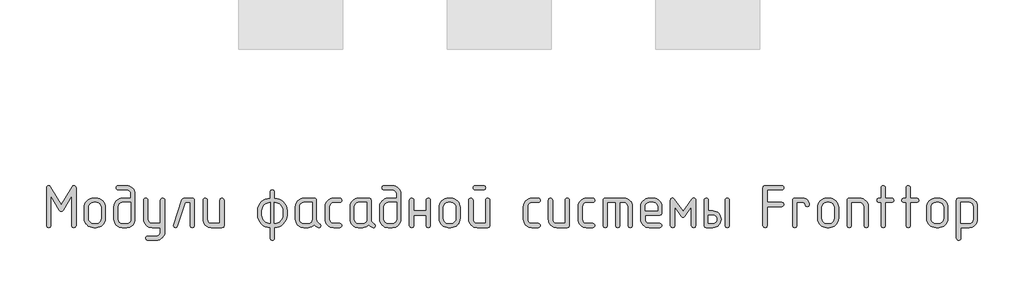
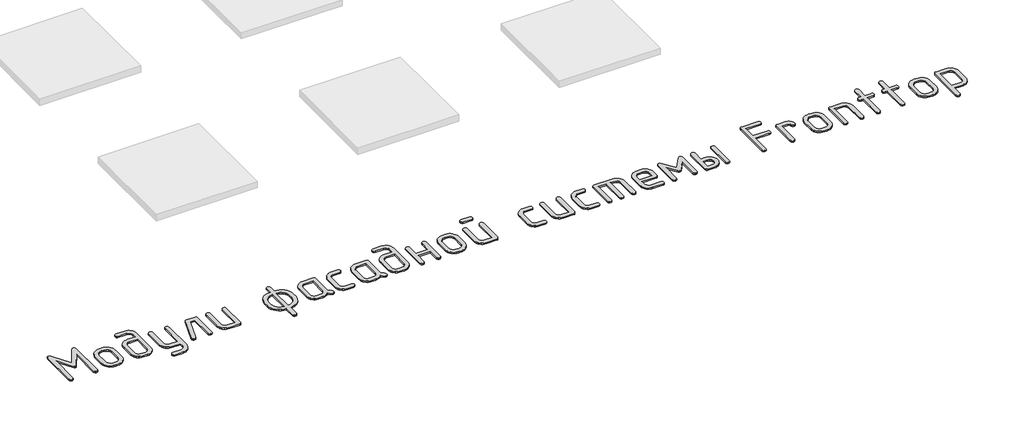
# One storey, part 35 of 37: 1 proxy.
"""IFC4 building model written with IfcOpenShell, lengths in millimetres."""

from ifc_helpers import new_model, si_unit, origin, origin_with_axes, place, context, project, spatial, polyline, outline, extrude, element, save

model = new_model("IFC4")

# Units and contexts
model_context = context("Model", 3, world=origin())
ifc_project = project(units=[si_unit("LENGTHUNIT", "METRE", prefix="MILLI")], contexts=[model_context])

# Site, building, storey
site = spatial("IfcSite", under=ifc_project)
building = spatial("IfcBuilding", under=site)
storey = spatial("IfcBuildingStorey", under=building, Name="Этаж 01", Elevation=0.0)

# Proxy
placement = place(None, origin())
element("IfcBuildingElementProxy", 1, Name="600 мм ГОСТ 2.304", ObjectType="600 мм ГОСТ 2.304", at=placement, inside=storey, context=model_context, shape_type="SweptSolid", body=[
    extrude(outline(polyline([(57915.5638643, -16440.0995308), (57913.3455828, -16453.2385833), (57906.690738, -16462.6236208), (57896.7369103, -16468.2546433), (57884.6216801, -16470.1316508), (57873.6629898, -16468.1408853), (57863.8418798, -16462.1685887), (57856.90264, -16452.6697932), (57854.58956, -16440.0995308), (57854.58956, -16009.0324342), (57730.0624361, -16217.4371459), (57717.6628107, -16231.9981738), (57703.5188956, -16236.8518498), (57690.0575287, -16231.9981738), (57677.8854194, -16217.4371459), (57552.4482312, -16009.0324342), (57552.4482312, -16440.0995308), (57550.3437077, -16453.2385833), (57544.030137, -16462.6236208), (57534.4175834, -16468.2546433), (57522.4161112, -16470.1316508), (57510.7748727, -16468.1408853), (57500.7262467, -16462.1685887), (57493.7870069, -16452.6697932), (57491.4739269, -16440.0995308), (57491.4739269, -15899.5213702), (57493.5784505, -15885.1499391), (57499.8920212, -15873.887894), (57509.0495426, -15866.6073801), (57519.6859185, -15864.1805421), (57535.1949299, -15869.0342181), (57548.0495874, -15883.595246), (57703.5188956, -16143.2669101), (57858.9882039, -15883.595246), (57872.032458, -15869.0342181), (57888.1102597, -15864.1805421), (57898.1778454, -15866.6073801), (57907.1457701, -15873.887894), (57913.4593408, -15885.1499391), (57915.5638643, -15899.5213702), (57915.5638643, -16440.0995308)])), origin_with_axes(), (0.0, 0.0, 1.0), 20.0),
    extrude(outline(polyline([(58337.2269638, -16337.5656261), (58334.8001258, -16364.3556422), (58327.5196119, -16389.0600945), (58315.3854219, -16411.6789829), (58298.3975561, -16432.2123074), (58278.2623847, -16448.8020201), (58255.9278914, -16460.651815), (58231.3940762, -16467.7616919), (58204.660939, -16470.1316508), (58168.4100466, -16470.1316508), (58141.6863893, -16467.7616919), (58117.0293362, -16460.651815), (58094.4388874, -16448.8020201), (58073.9150427, -16432.2123074), (58056.9271768, -16411.6789829), (58044.7929869, -16389.0600945), (58037.512473, -16364.3556422), (58035.085635, -16337.5656261), (58035.085635, -16180.4278667), (58037.512473, -16154.0360036), (58044.7929869, -16129.6159464), (58056.9271768, -16107.1676951), (58073.9150427, -16086.6912496), (58095.0645565, -16069.7033837), (58117.8635618, -16057.5691938), (58142.3120585, -16050.2886799), (58168.4100466, -16047.8618419), (58204.660939, -16047.8618419), (58231.0480621, -16050.2934198), (58255.4538996, -16057.5881535), (58277.8784513, -16069.746043), (58298.3217174, -16086.7670883), (58315.3427627, -16107.2103544), (58327.5006522, -16129.6349061), (58334.7953859, -16154.0407436), (58337.2269638, -16180.4278667), (58337.2269638, -16337.5656261)]), holes=[polyline([(58277.1627237, -16337.5656261), (58277.1627237, -16180.4278667), (58271.8540156, -16152.5950686), (58255.9278914, -16129.1609143), (58232.4937371, -16113.2347901), (58204.660939, -16107.926082), (58168.4100466, -16107.926082), (58140.5962082, -16113.2347901), (58117.2189329, -16129.1609143), (58101.3496877, -16152.5950686), (58096.0599393, -16180.4278667), (58096.0599393, -16337.5656261), (58101.3496877, -16365.3984242), (58117.2189329, -16388.8325784), (58140.5962082, -16404.7587027), (58168.4100466, -16410.0674108), (58204.660939, -16410.0674108), (58232.4937371, -16404.7587027), (58255.9278914, -16388.8325784), (58271.8540156, -16365.3984242), (58277.1627237, -16337.5656261)])]), origin_with_axes(), (0.0, 0.0, 1.0), 20.0),
    extrude(outline(polyline([(58704.2862086, -16047.8618419), (58704.2862086, -15986.8875376), (58699.8686051, -15963.358585), (58686.6157946, -15944.0386795), (58666.954615, -15931.127143), (58643.3119043, -15926.8232975), (58523.1834242, -15926.8232975), (58510.6131618, -15924.6239756), (58501.1143663, -15918.0260098), (58495.1420697, -15908.3186579), (58493.1513042, -15896.7911775), (58495.0283117, -15885.2447374), (58500.6593342, -15875.1771517), (58510.0443717, -15868.1810328), (58523.1834242, -15865.8489932), (58643.3119043, -15865.8489932), (58667.8931187, -15868.057795), (58690.3698096, -15874.6842003), (58710.7419769, -15885.728209), (58729.0096206, -15901.1898213), (58744.4712329, -15919.7987392), (58755.5152417, -15940.2846645), (58762.1416469, -15962.6475973), (58764.3504487, -15986.8875376), (58764.3504487, -16349.0931065), (58762.1416469, -16373.7311999), (58755.5152417, -16396.3785278), (58744.4712329, -16417.0350901), (58729.0096206, -16435.700887), (58710.7419769, -16450.7643462), (58690.3698096, -16461.5239599), (58667.8931187, -16467.9797281), (58643.3119043, -16470.1316508), (58583.2476643, -16470.1316508), (58559.0077239, -16467.9797281), (58536.6447911, -16461.5239599), (58516.1588658, -16450.7643462), (58497.549948, -16435.700887), (58482.0883357, -16417.0350901), (58471.0443269, -16396.3785278), (58464.4179216, -16373.7311999), (58462.2091199, -16349.0931065), (58462.2091199, -16167.990322), (58464.4179216, -16144.1485348), (58471.0443269, -16122.0699971), (58482.0883357, -16101.7547088), (58497.549948, -16083.20267), (58516.1588658, -16067.7410577), (58536.6447911, -16056.6970489), (58559.0077239, -16050.0706437), (58583.2476643, -16047.8618419), (58704.2862086, -16047.8618419)]), holes=[polyline([(58704.2862086, -16107.926082), (58583.2476643, -16107.926082), (58559.7187116, -16112.3436855), (58540.3988061, -16125.596496), (58527.4872697, -16145.0301596), (58523.1834242, -16167.990322), (58523.1834242, -16349.0931065), (58527.4872697, -16372.7358171), (58540.3988061, -16392.3969967), (58559.7187116, -16405.6498073), (58583.2476643, -16410.0674108), (58643.3119043, -16410.0674108), (58666.954615, -16405.6498073), (58686.6157946, -16392.3969967), (58699.8686051, -16372.7358171), (58704.2862086, -16349.0931065), (58704.2862086, -16107.926082)])]), origin_with_axes(), (0.0, 0.0, 1.0), 20.0),
    extrude(outline(polyline([(59131.4096935, -16470.1316508), (59010.3711492, -16470.1316508), (58986.1312088, -16467.9797281), (58963.768276, -16461.5239599), (58943.2823507, -16450.7643462), (58924.6734329, -16435.700887), (58909.2118206, -16417.0350901), (58898.1678118, -16396.3785278), (58891.5414065, -16373.7311999), (58889.3326048, -16349.0931065), (58889.3326048, -16077.8939619), (58891.5508864, -16065.3236996), (58898.2057312, -16055.824904), (58908.1595588, -16049.8526074), (58920.2747891, -16047.8618419), (58931.2334793, -16049.7388494), (58941.0545893, -16055.3698719), (58947.9938291, -16064.7549094), (58950.3069091, -16077.8939619), (58950.3069091, -16349.0931065), (58954.6107546, -16372.7358171), (58967.522291, -16392.3969967), (58986.8421965, -16405.6498073), (59010.3711492, -16410.0674108), (59131.4096935, -16410.0674108), (59131.4096935, -16077.8939619), (59133.6090155, -16065.3236996), (59140.2069812, -16055.824904), (59149.9143332, -16049.8526074), (59161.4418136, -16047.8618419), (59172.8744956, -16049.7388494), (59182.6008072, -16055.3698719), (59189.255652, -16064.7549094), (59191.4739336, -16077.8939619), (59191.4739336, -16530.1958909), (59189.3220109, -16554.7771053), (59182.8662426, -16577.2537962), (59172.1066289, -16597.6259634), (59157.0431697, -16615.8936072), (59138.3773729, -16631.3552195), (59117.7208105, -16642.3992283), (59095.0734827, -16649.0256335), (59070.4353892, -16651.2344353), (58950.3069091, -16651.2344353), (58937.7366467, -16649.0161537), (58928.2378512, -16642.3613089), (58922.2655546, -16632.6349973), (58920.2747891, -16621.2023153), (58922.1517966, -16609.6748348), (58927.7828191, -16599.9674829), (58937.1678566, -16593.3695171), (58950.3069091, -16591.1701952), (59070.4353892, -16591.1701952), (59094.0780999, -16586.7525917), (59113.7392795, -16573.4997812), (59126.99209, -16553.8386016), (59131.4096935, -16530.1958909), (59131.4096935, -16470.1316508)])), origin_with_axes(), (0.0, 0.0, 1.0), 20.0),
    extrude(outline(polyline([(59618.5974185, -16440.0995308), (59616.4928949, -16453.2385833), (59610.1793243, -16462.6236208), (59600.5667707, -16468.2546433), (59588.5652985, -16470.1316508), (59577.0378181, -16468.1408853), (59567.3304661, -16462.1685887), (59560.7325004, -16452.6697932), (59558.5331784, -16440.0995308), (59558.5331784, -16107.926082), (59488.7615864, -16107.926082), (59375.6102655, -16449.8068827), (59364.6136559, -16464.8229428), (59348.3083382, -16470.1316508), (59336.6670998, -16468.1408853), (59326.6184737, -16462.1685887), (59319.6792339, -16452.8973092), (59317.3661539, -16441.0095951), (59319.1862824, -16430.3921789), (59438.4046983, -16068.18661), (59449.1737919, -16052.9430339), (59467.5267541, -16047.8618419), (59588.5652985, -16047.8618419), (59601.704351, -16049.7388494), (59611.0893885, -16055.3698719), (59616.720411, -16064.7549094), (59618.5974185, -16077.8939619), (59618.5974185, -16440.0995308)])), origin_with_axes(), (0.0, 0.0, 1.0), 20.0),
    extrude(outline(polyline([(60045.7209034, -16440.0995308), (60043.8438959, -16453.2385833), (60038.2128734, -16462.6236208), (60028.8278359, -16468.2546433), (60015.6887834, -16470.1316508), (59864.618119, -16470.1316508), (59840.3781787, -16467.9797281), (59818.0152458, -16461.5239599), (59797.5293205, -16450.7643462), (59778.9204027, -16435.700887), (59763.4587904, -16417.0350901), (59752.4147816, -16396.3785278), (59745.7883764, -16373.7311999), (59743.5795746, -16349.0931065), (59743.5795746, -16077.8939619), (59745.7978562, -16065.3236996), (59752.452701, -16055.824904), (59762.4065286, -16049.8526074), (59774.5217589, -16047.8618419), (59785.4804491, -16049.7388494), (59795.3015591, -16055.3698719), (59802.240799, -16064.7549094), (59804.5538789, -16077.8939619), (59804.5538789, -16349.0931065), (59808.8577244, -16372.7358171), (59821.7692608, -16392.3969967), (59841.0891664, -16405.6498073), (59864.618119, -16410.0674108), (59985.6566633, -16410.0674108), (59985.6566633, -16077.8939619), (59987.8559853, -16065.3236996), (59994.453951, -16055.824904), (60004.161303, -16049.8526074), (60015.6887834, -16047.8618419), (60027.1214654, -16049.7388494), (60036.847777, -16055.3698719), (60043.5026218, -16064.7549094), (60045.7209034, -16077.8939619), (60045.7209034, -16440.0995308)])), origin_with_axes(), (0.0, 0.0, 1.0), 20.0),
    extrude(outline(polyline([(60771.9521697, -16047.8618419), (60808.4495377, -16051.1229054), (60841.9512777, -16060.9060961), (60872.4573895, -16077.2114138), (60899.9678732, -16100.0388585), (60923.1934711, -16127.6062212), (60939.7831839, -16158.2829701), (60949.7370115, -16192.0691051), (60953.0549541, -16228.9646263), (60953.0549541, -16289.0288664), (60949.7417515, -16325.1897003), (60939.8021435, -16358.591902), (60923.2361304, -16389.2354715), (60900.0437119, -16417.1204087), (60872.1587747, -16440.3128271), (60841.5152053, -16456.8788403), (60808.1130036, -16466.8184482), (60771.9521697, -16470.1316508), (60771.9521697, -16621.2023153), (60769.8476461, -16634.3413678), (60763.5340754, -16643.7264053), (60753.9215218, -16649.3574278), (60741.9200496, -16651.2344353), (60730.2788112, -16649.2436698), (60720.2301852, -16643.2713732), (60713.2909453, -16633.7725776), (60710.9778653, -16621.2023153), (60710.9778653, -16470.1316508), (60674.8170314, -16466.8184482), (60641.4148297, -16456.8788403), (60610.7712603, -16440.3128271), (60582.8863231, -16417.1204087), (60559.6939046, -16389.2354715), (60543.1278915, -16358.591902), (60533.1882835, -16325.1897003), (60529.8750809, -16289.0288664), (60529.8750809, -16228.9646263), (60533.1835436, -16192.4672582), (60543.1089318, -16158.9655183), (60559.6512454, -16128.4594065), (60582.8104844, -16100.9489228), (60610.728601, -16077.7233249), (60641.3958701, -16061.1336121), (60674.8122915, -16051.1797845), (60710.9778653, -16047.8618419), (60710.9778653, -15956.8554176), (60713.1771873, -15944.2851552), (60719.775153, -15934.7863597), (60729.710021, -15928.8140631), (60741.9200496, -15926.8232975), (60752.8787399, -15928.8140631), (60762.6998498, -15934.7863597), (60769.6390897, -15944.2851552), (60771.9521697, -15956.8554176), (60771.9521697, -16047.8618419)]), holes=[polyline([(60771.9521697, -16107.926082), (60771.9521697, -16410.0674108), (60796.135231, -16407.858609), (60818.3275267, -16401.2322037), (60838.529057, -16390.188195), (60856.7398217, -16374.7265827), (60872.201434, -16356.1176648), (60883.2454428, -16335.6317395), (60889.871848, -16313.2688067), (60892.0806498, -16289.0288664), (60892.0806498, -16228.9646263), (60889.871848, -16204.724686), (60883.2454428, -16182.3617532), (60872.201434, -16161.8758279), (60856.7398217, -16143.2669101), (60838.1877829, -16127.8052978), (60817.8724946, -16116.761289), (60795.7939569, -16110.1348837), (60771.9521697, -16107.926082)]), polyline([(60710.9778653, -16410.0674108), (60710.9778653, -16107.926082), (60687.1360781, -16110.1348837), (60665.0575404, -16116.761289), (60644.7422521, -16127.8052978), (60626.1902133, -16143.2669101), (60610.728601, -16161.8758279), (60599.6845922, -16182.3617532), (60593.058187, -16204.724686), (60590.8493852, -16228.9646263), (60590.8493852, -16289.0288664), (60593.058187, -16313.2688067), (60599.6845922, -16335.6317395), (60610.728601, -16356.1176648), (60626.1902133, -16374.7265827), (60644.7422521, -16390.188195), (60665.0575404, -16401.2322037), (60687.1360781, -16407.858609), (60710.9778653, -16410.0674108)])]), origin_with_axes(), (0.0, 0.0, 1.0), 20.0),
    extrude(outline(polyline([(61344.6859335, -16430.3921789), (61326.7880034, -16446.3562225), (61304.9464615, -16459.0592025), (61280.4505657, -16467.3635388), (61254.5895734, -16470.1316508), (61194.5253333, -16470.1316508), (61170.285393, -16467.9797281), (61147.9224602, -16461.5239599), (61127.4365349, -16450.7643462), (61108.8276171, -16435.700887), (61093.3660048, -16417.0350901), (61082.321996, -16396.3785278), (61075.6955907, -16373.7311999), (61073.486789, -16349.0931065), (61073.486789, -16167.990322), (61075.6955907, -16144.1485348), (61082.321996, -16122.0699971), (61093.3660048, -16101.7547088), (61108.8276171, -16083.20267), (61127.4365349, -16067.7410577), (61147.9224602, -16056.6970489), (61170.285393, -16050.0706437), (61194.5253333, -16047.8618419), (61345.5959977, -16047.8618419), (61358.7350503, -16049.7388494), (61368.1200878, -16055.3698719), (61373.7511103, -16064.7549094), (61375.6281178, -16077.8939619), (61375.6281178, -16349.0931065), (61378.4910282, -16368.640528), (61387.0797595, -16386.6332565), (61400.3325701, -16401.7441149), (61417.1877182, -16412.6459261), (61431.7487461, -16423.3012617), (61436.6024221, -16439.1894666), (61434.4978985, -16450.944463), (61428.1843278, -16461.3343632), (61418.5717743, -16468.6148771), (61406.5703021, -16471.0417151), (61394.1327574, -16467.5531355), (61366.2999593, -16451.5890919), (61344.6859335, -16430.3921789)]), holes=[polyline([(61315.5638777, -16349.0931065), (61315.5638777, -16107.926082), (61194.5253333, -16107.926082), (61170.9963807, -16112.3436855), (61151.6764752, -16125.596496), (61138.7649388, -16145.0301596), (61134.4610933, -16167.990322), (61134.4610933, -16349.0931065), (61138.7649388, -16372.7358171), (61151.6764752, -16392.3969967), (61170.9963807, -16405.6498073), (61194.5253333, -16410.0674108), (61254.5895734, -16410.0674108), (61278.2322841, -16405.6498073), (61297.8934637, -16392.3969967), (61311.1462742, -16372.7358171), (61315.5638777, -16349.0931065)])]), origin_with_axes(), (0.0, 0.0, 1.0), 20.0),
    extrude(outline(polyline([(61712.6552426, -16470.1316508), (61621.6488182, -16470.1316508), (61597.4088779, -16467.9797281), (61575.0459451, -16461.5239599), (61554.5600198, -16450.7643462), (61535.951102, -16435.700887), (61520.4894897, -16417.0350901), (61509.4454809, -16396.3785278), (61502.8190756, -16373.7311999), (61500.6102739, -16349.0931065), (61500.6102739, -16167.990322), (61502.8190756, -16144.1485348), (61509.4454809, -16122.0699971), (61520.4894897, -16101.7547088), (61535.951102, -16083.20267), (61554.5600198, -16067.7410577), (61575.0459451, -16056.6970489), (61597.4088779, -16050.0706437), (61621.6488182, -16047.8618419), (61712.6552426, -16047.8618419), (61725.7942951, -16049.9663655), (61735.1793326, -16056.2799362), (61740.8103551, -16065.8924897), (61742.6873626, -16077.8939619), (61740.6965971, -16088.8526522), (61734.7243005, -16098.6737622), (61725.225505, -16105.613002), (61712.6552426, -16107.926082), (61621.6488182, -16107.926082), (61598.1198656, -16112.3436855), (61578.7999601, -16125.596496), (61565.8884237, -16145.0301596), (61561.5845782, -16167.990322), (61561.5845782, -16349.0931065), (61565.8884237, -16372.7358171), (61578.7999601, -16392.3969967), (61598.1198656, -16405.6498073), (61621.6488182, -16410.0674108), (61712.6552426, -16410.0674108), (61725.7942951, -16412.1719343), (61735.1793326, -16418.485505), (61740.8103551, -16428.0980586), (61742.6873626, -16440.0995308), (61740.6965971, -16451.0582211), (61734.7243005, -16460.879331), (61725.225505, -16467.8185709), (61712.6552426, -16470.1316508)])), origin_with_axes(), (0.0, 0.0, 1.0), 20.0),
    extrude(outline(polyline([(62130.9814398, -16430.3921789), (62113.0835097, -16446.3562225), (62091.2419678, -16459.0592025), (62066.746072, -16467.3635388), (62040.8850797, -16470.1316508), (61980.8208396, -16470.1316508), (61956.5808993, -16467.9797281), (61934.2179665, -16461.5239599), (61913.7320412, -16450.7643462), (61895.1231234, -16435.700887), (61879.6615111, -16417.0350901), (61868.6175023, -16396.3785278), (61861.991097, -16373.7311999), (61859.7822953, -16349.0931065), (61859.7822953, -16167.990322), (61861.991097, -16144.1485348), (61868.6175023, -16122.0699971), (61879.6615111, -16101.7547088), (61895.1231234, -16083.20267), (61913.7320412, -16067.7410577), (61934.2179665, -16056.6970489), (61956.5808993, -16050.0706437), (61980.8208396, -16047.8618419), (62131.8915041, -16047.8618419), (62145.0305566, -16049.7388494), (62154.4155941, -16055.3698719), (62160.0466166, -16064.7549094), (62161.9236241, -16077.8939619), (62161.9236241, -16349.0931065), (62164.7865345, -16368.640528), (62173.3752658, -16386.6332565), (62186.6280764, -16401.7441149), (62203.4832245, -16412.6459261), (62218.0442524, -16423.3012617), (62222.8979284, -16439.1894666), (62220.7934048, -16450.944463), (62214.4798341, -16461.3343632), (62204.8672806, -16468.6148771), (62192.8658084, -16471.0417151), (62180.4282637, -16467.5531355), (62152.5954656, -16451.5890919), (62130.9814398, -16430.3921789)]), holes=[polyline([(62101.859384, -16349.0931065), (62101.859384, -16107.926082), (61980.8208396, -16107.926082), (61957.291887, -16112.3436855), (61937.9719815, -16125.596496), (61925.0604451, -16145.0301596), (61920.7565996, -16167.990322), (61920.7565996, -16349.0931065), (61925.0604451, -16372.7358171), (61937.9719815, -16392.3969967), (61957.291887, -16405.6498073), (61980.8208396, -16410.0674108), (62040.8850797, -16410.0674108), (62064.5277904, -16405.6498073), (62084.18897, -16392.3969967), (62097.4417805, -16372.7358171), (62101.859384, -16349.0931065)])]), origin_with_axes(), (0.0, 0.0, 1.0), 20.0),
    extrude(outline(polyline([(62528.9828689, -16047.8618419), (62528.9828689, -15986.8875376), (62524.5652654, -15963.358585), (62511.3124549, -15944.0386795), (62491.6512753, -15931.127143), (62468.0085646, -15926.8232975), (62347.8800845, -15926.8232975), (62335.3098221, -15924.6239756), (62325.8110266, -15918.0260098), (62319.83873, -15908.3186579), (62317.8479645, -15896.7911775), (62319.724972, -15885.2447374), (62325.3559945, -15875.1771517), (62334.741032, -15868.1810328), (62347.8800845, -15865.8489932), (62468.0085646, -15865.8489932), (62492.589779, -15868.057795), (62515.0664699, -15874.6842003), (62535.4386372, -15885.728209), (62553.7062809, -15901.1898213), (62569.1678932, -15919.7987392), (62580.211902, -15940.2846645), (62586.8383072, -15962.6475973), (62589.047109, -15986.8875376), (62589.047109, -16349.0931065), (62586.8383072, -16373.7311999), (62580.211902, -16396.3785278), (62569.1678932, -16417.0350901), (62553.7062809, -16435.700887), (62535.4386372, -16450.7643462), (62515.0664699, -16461.5239599), (62492.589779, -16467.9797281), (62468.0085646, -16470.1316508), (62407.9443246, -16470.1316508), (62383.7043842, -16467.9797281), (62361.3414514, -16461.5239599), (62340.8555261, -16450.7643462), (62322.2466083, -16435.700887), (62306.784996, -16417.0350901), (62295.7409872, -16396.3785278), (62289.1145819, -16373.7311999), (62286.9057802, -16349.0931065), (62286.9057802, -16167.990322), (62289.1145819, -16144.1485348), (62295.7409872, -16122.0699971), (62306.784996, -16101.7547088), (62322.2466083, -16083.20267), (62340.8555261, -16067.7410577), (62361.3414514, -16056.6970489), (62383.7043842, -16050.0706437), (62407.9443246, -16047.8618419), (62528.9828689, -16047.8618419)]), holes=[polyline([(62528.9828689, -16107.926082), (62407.9443246, -16107.926082), (62384.4153719, -16112.3436855), (62365.0954664, -16125.596496), (62352.18393, -16145.0301596), (62347.8800845, -16167.990322), (62347.8800845, -16349.0931065), (62352.18393, -16372.7358171), (62365.0954664, -16392.3969967), (62384.4153719, -16405.6498073), (62407.9443246, -16410.0674108), (62468.0085646, -16410.0674108), (62491.6512753, -16405.6498073), (62511.3124549, -16392.3969967), (62524.5652654, -16372.7358171), (62528.9828689, -16349.0931065), (62528.9828689, -16107.926082)])]), origin_with_axes(), (0.0, 0.0, 1.0), 20.0),
    extrude(outline(polyline([(62956.1063538, -16228.9646263), (62956.1063538, -16077.8939619), (62958.3056758, -16065.3236996), (62964.9036415, -16055.824904), (62974.6109934, -16049.8526074), (62986.1384739, -16047.8618419), (62997.5711559, -16049.7388494), (63007.2974675, -16055.3698719), (63013.9523123, -16064.7549094), (63016.1705939, -16077.8939619), (63016.1705939, -16440.0995308), (63014.0660703, -16453.2385833), (63007.7524996, -16462.6236208), (62998.1399461, -16468.2546433), (62986.1384739, -16470.1316508), (62974.6109934, -16468.1408853), (62964.9036415, -16462.1685887), (62958.3056758, -16452.6697932), (62956.1063538, -16440.0995308), (62956.1063538, -16289.0288664), (62775.0035694, -16289.0288664), (62775.0035694, -16440.0995308), (62772.8990458, -16453.2385833), (62766.5854751, -16462.6236208), (62756.9729216, -16468.2546433), (62744.9714494, -16470.1316508), (62733.3302109, -16468.1408853), (62723.2815849, -16462.1685887), (62716.342345, -16452.6697932), (62714.0292651, -16440.0995308), (62714.0292651, -16077.8939619), (62716.2475467, -16065.3236996), (62722.9023915, -16055.824904), (62732.8562191, -16049.8526074), (62744.9714494, -16047.8618419), (62755.9301396, -16049.7388494), (62765.7512496, -16055.3698719), (62772.6904894, -16064.7549094), (62775.0035694, -16077.8939619), (62775.0035694, -16228.9646263), (62956.1063538, -16228.9646263)])), origin_with_axes(), (0.0, 0.0, 1.0), 20.0),
    extrude(outline(polyline([(63443.2940788, -16337.5656261), (63440.8672408, -16364.3556422), (63433.5867269, -16389.0600945), (63421.452537, -16411.6789829), (63404.4646711, -16432.2123074), (63384.3294997, -16448.8020201), (63361.9950064, -16460.651815), (63337.4611912, -16467.7616919), (63310.728054, -16470.1316508), (63274.4771617, -16470.1316508), (63247.7535043, -16467.7616919), (63223.0964512, -16460.651815), (63200.5060024, -16448.8020201), (63179.9821577, -16432.2123074), (63162.9942918, -16411.6789829), (63150.8601019, -16389.0600945), (63143.579588, -16364.3556422), (63141.15275, -16337.5656261), (63141.15275, -16180.4278667), (63143.579588, -16154.0360036), (63150.8601019, -16129.6159464), (63162.9942918, -16107.1676951), (63179.9821577, -16086.6912496), (63201.1316715, -16069.7033837), (63223.9306768, -16057.5691938), (63248.3791735, -16050.2886799), (63274.4771617, -16047.8618419), (63310.728054, -16047.8618419), (63337.1151772, -16050.2934198), (63361.5210146, -16057.5881535), (63383.9455663, -16069.746043), (63404.3888324, -16086.7670883), (63421.4098777, -16107.2103544), (63433.5677672, -16129.6349061), (63440.8625009, -16154.0407436), (63443.2940788, -16180.4278667), (63443.2940788, -16337.5656261)]), holes=[polyline([(63383.2298387, -16337.5656261), (63383.2298387, -16180.4278667), (63377.9211307, -16152.5950686), (63361.9950064, -16129.1609143), (63338.5608521, -16113.2347901), (63310.728054, -16107.926082), (63274.4771617, -16107.926082), (63246.6633232, -16113.2347901), (63223.286048, -16129.1609143), (63207.4168027, -16152.5950686), (63202.1270543, -16180.4278667), (63202.1270543, -16337.5656261), (63207.4168027, -16365.3984242), (63223.286048, -16388.8325784), (63246.6633232, -16404.7587027), (63274.4771617, -16410.0674108), (63310.728054, -16410.0674108), (63338.5608521, -16404.7587027), (63361.9950064, -16388.8325784), (63377.9211307, -16365.3984242), (63383.2298387, -16337.5656261)])]), origin_with_axes(), (0.0, 0.0, 1.0), 20.0),
    extrude(outline(polyline([(63870.4175637, -16440.0995308), (63868.5405562, -16453.2385833), (63862.9095337, -16462.6236208), (63853.5244962, -16468.2546433), (63840.3854437, -16470.1316508), (63689.3147793, -16470.1316508), (63665.074839, -16467.9797281), (63642.7119061, -16461.5239599), (63622.2259808, -16450.7643462), (63603.617063, -16435.700887), (63588.1554507, -16417.0350901), (63577.1114419, -16396.3785278), (63570.4850367, -16373.7311999), (63568.2762349, -16349.0931065), (63568.2762349, -16077.8939619), (63570.4945165, -16065.3236996), (63577.1493613, -16055.824904), (63587.1031889, -16049.8526074), (63599.2184192, -16047.8618419), (63610.1771094, -16049.7388494), (63619.9982194, -16055.3698719), (63626.9374593, -16064.7549094), (63629.2505392, -16077.8939619), (63629.2505392, -16349.0931065), (63633.5543847, -16372.7358171), (63646.4659211, -16392.3969967), (63665.7858266, -16405.6498073), (63689.3147793, -16410.0674108), (63810.3533236, -16410.0674108), (63810.3533236, -16077.8939619), (63812.5526456, -16065.3236996), (63819.1506113, -16055.824904), (63828.8579633, -16049.8526074), (63840.3854437, -16047.8618419), (63851.8181257, -16049.7388494), (63861.5444373, -16055.3698719), (63868.1992821, -16064.7549094), (63870.4175637, -16077.8939619), (63870.4175637, -16440.0995308)])), origin_with_axes(), (0.0, 0.0, 1.0), 20.0),
    extrude(outline(polyline([(63780.3212036, -15926.8232975), (63659.2826592, -15926.8232975), (63646.7123969, -15924.6239756), (63637.2136013, -15918.0260098), (63631.2413047, -15908.3186579), (63629.2505392, -15896.7911775), (63631.1275467, -15885.2447374), (63636.7585692, -15875.1771517), (63646.1436067, -15868.1810328), (63659.2826592, -15865.8489932), (63780.3212036, -15865.8489932), (63793.4602561, -15868.0672748), (63802.8452936, -15874.7221196), (63808.4763161, -15884.6759473), (63810.3533236, -15896.7911775), (63808.3625581, -15907.7498678), (63802.3902615, -15917.5709777), (63792.891466, -15924.5102176), (63780.3212036, -15926.8232975)])), origin_with_axes(), (0.0, 0.0, 1.0), 20.0),
    extrude(outline(polyline([(64566.6167099, -16470.1316508), (64475.6102856, -16470.1316508), (64451.3703453, -16467.9797281), (64429.0074124, -16461.5239599), (64408.5214871, -16450.7643462), (64389.9125693, -16435.700887), (64374.450957, -16417.0350901), (64363.4069482, -16396.3785278), (64356.780543, -16373.7311999), (64354.5717412, -16349.0931065), (64354.5717412, -16167.990322), (64356.780543, -16144.1485348), (64363.4069482, -16122.0699971), (64374.450957, -16101.7547088), (64389.9125693, -16083.20267), (64408.5214871, -16067.7410577), (64429.0074124, -16056.6970489), (64451.3703453, -16050.0706437), (64475.6102856, -16047.8618419), (64566.6167099, -16047.8618419), (64579.7557624, -16049.9663655), (64589.1407999, -16056.2799362), (64594.7718224, -16065.8924897), (64596.6488299, -16077.8939619), (64594.6580644, -16088.8526522), (64588.6857678, -16098.6737622), (64579.1869723, -16105.613002), (64566.6167099, -16107.926082), (64475.6102856, -16107.926082), (64452.0813329, -16112.3436855), (64432.7614274, -16125.596496), (64419.849891, -16145.0301596), (64415.5460455, -16167.990322), (64415.5460455, -16349.0931065), (64419.849891, -16372.7358171), (64432.7614274, -16392.3969967), (64452.0813329, -16405.6498073), (64475.6102856, -16410.0674108), (64566.6167099, -16410.0674108), (64579.7557624, -16412.1719343), (64589.1407999, -16418.485505), (64594.7718224, -16428.0980586), (64596.6488299, -16440.0995308), (64594.6580644, -16451.0582211), (64588.6857678, -16460.879331), (64579.1869723, -16467.8185709), (64566.6167099, -16470.1316508)])), origin_with_axes(), (0.0, 0.0, 1.0), 20.0),
    extrude(outline(polyline([(65015.8850914, -16440.0995308), (65014.0080839, -16453.2385833), (65008.3770614, -16462.6236208), (64998.9920239, -16468.2546433), (64985.8529714, -16470.1316508), (64834.782307, -16470.1316508), (64810.5423667, -16467.9797281), (64788.1794338, -16461.5239599), (64767.6935085, -16450.7643462), (64749.0845907, -16435.700887), (64733.6229784, -16417.0350901), (64722.5789696, -16396.3785278), (64715.9525644, -16373.7311999), (64713.7437626, -16349.0931065), (64713.7437626, -16077.8939619), (64715.9620442, -16065.3236996), (64722.616889, -16055.824904), (64732.5707166, -16049.8526074), (64744.6859469, -16047.8618419), (64755.6446371, -16049.7388494), (64765.4657471, -16055.3698719), (64772.404987, -16064.7549094), (64774.7180669, -16077.8939619), (64774.7180669, -16349.0931065), (64779.0219124, -16372.7358171), (64791.9334488, -16392.3969967), (64811.2533543, -16405.6498073), (64834.782307, -16410.0674108), (64955.8208513, -16410.0674108), (64955.8208513, -16077.8939619), (64958.0201733, -16065.3236996), (64964.618139, -16055.824904), (64974.325491, -16049.8526074), (64985.8529714, -16047.8618419), (64997.2856534, -16049.7388494), (65007.011965, -16055.3698719), (65013.6668098, -16064.7549094), (65015.8850914, -16077.8939619), (65015.8850914, -16440.0995308)])), origin_with_axes(), (0.0, 0.0, 1.0), 20.0),
    extrude(outline(polyline([(65352.9122162, -16470.1316508), (65261.9057919, -16470.1316508), (65237.6658516, -16467.9797281), (65215.3029187, -16461.5239599), (65194.8169934, -16450.7643462), (65176.2080756, -16435.700887), (65160.7464633, -16417.0350901), (65149.7024545, -16396.3785278), (65143.0760493, -16373.7311999), (65140.8672475, -16349.0931065), (65140.8672475, -16167.990322), (65143.0760493, -16144.1485348), (65149.7024545, -16122.0699971), (65160.7464633, -16101.7547088), (65176.2080756, -16083.20267), (65194.8169934, -16067.7410577), (65215.3029187, -16056.6970489), (65237.6658516, -16050.0706437), (65261.9057919, -16047.8618419), (65352.9122162, -16047.8618419), (65366.0512687, -16049.9663655), (65375.4363062, -16056.2799362), (65381.0673288, -16065.8924897), (65382.9443363, -16077.8939619), (65380.9535707, -16088.8526522), (65374.9812741, -16098.6737622), (65365.4824786, -16105.613002), (65352.9122162, -16107.926082), (65261.9057919, -16107.926082), (65238.3768393, -16112.3436855), (65219.0569338, -16125.596496), (65206.1453973, -16145.0301596), (65201.8415518, -16167.990322), (65201.8415518, -16349.0931065), (65206.1453973, -16372.7358171), (65219.0569338, -16392.3969967), (65238.3768393, -16405.6498073), (65261.9057919, -16410.0674108), (65352.9122162, -16410.0674108), (65366.0512687, -16412.1719343), (65375.4363062, -16418.485505), (65381.0673288, -16428.0980586), (65382.9443363, -16440.0995308), (65380.9535707, -16451.0582211), (65374.9812741, -16460.879331), (65365.4824786, -16467.8185709), (65352.9122162, -16470.1316508)])), origin_with_axes(), (0.0, 0.0, 1.0), 20.0),
    extrude(outline(polyline([(65681.1420533, -16107.926082), (65561.0135732, -16107.926082), (65561.0135732, -16440.0995308), (65558.9090497, -16453.2385833), (65552.595479, -16462.6236208), (65542.9829254, -16468.2546433), (65530.9814532, -16470.1316508), (65519.3402147, -16468.1408853), (65509.2915887, -16462.1685887), (65502.3523489, -16452.6697932), (65500.0392689, -16440.0995308), (65500.0392689, -16077.8939619), (65501.9731554, -16064.7549094), (65507.774815, -16055.3698719), (65517.4442476, -16049.7388494), (65530.9814532, -16047.8618419), (65802.1805977, -16047.8618419), (65826.7618121, -16050.0137646), (65849.238503, -16056.4695329), (65869.6106703, -16067.2291466), (65887.878314, -16082.2926058), (65903.3399263, -16100.9015236), (65914.3839351, -16121.3874489), (65921.0103403, -16143.7503817), (65923.2191421, -16167.990322), (65923.2191421, -16440.0995308), (65921.1146185, -16453.2385833), (65914.8010478, -16462.6236208), (65905.1884943, -16468.2546433), (65893.1870221, -16470.1316508), (65881.5457836, -16468.1408853), (65871.4971576, -16462.1685887), (65864.5579177, -16452.6697932), (65862.2448378, -16440.0995308), (65862.2448378, -16167.990322), (65857.9409923, -16145.0301596), (65845.0294558, -16125.596496), (65825.7095503, -16112.3436855), (65802.1805977, -16107.926082), (65742.1163577, -16107.926082), (65742.1163577, -16440.0995308), (65740.0118341, -16453.2385833), (65733.6982634, -16462.6236208), (65724.0857098, -16468.2546433), (65712.0842376, -16470.1316508), (65700.4429992, -16468.1408853), (65690.3943732, -16462.1685887), (65683.4551333, -16452.6697932), (65681.1420533, -16440.0995308), (65681.1420533, -16107.926082)])), origin_with_axes(), (0.0, 0.0, 1.0), 20.0),
    extrude(outline(polyline([(66104.6252813, -16289.0288664), (66104.6252813, -16349.0931065), (66108.9291268, -16372.7358171), (66121.8406632, -16392.3969967), (66141.1605687, -16405.6498073), (66164.6895213, -16410.0674108), (66315.7601857, -16410.0674108), (66328.8992383, -16412.1719343), (66338.2842758, -16418.485505), (66343.9152983, -16428.0980586), (66345.7923058, -16440.0995308), (66343.8015402, -16451.0582211), (66337.8292436, -16460.879331), (66328.3304481, -16467.8185709), (66315.7601857, -16470.1316508), (66164.6895213, -16470.1316508), (66140.449581, -16467.9797281), (66118.0866482, -16461.5239599), (66097.6007229, -16450.7643462), (66078.9918051, -16435.700887), (66063.5301928, -16417.0350901), (66052.486184, -16396.3785278), (66045.8597787, -16373.7311999), (66043.650977, -16349.0931065), (66043.650977, -16167.990322), (66045.8597787, -16143.8072607), (66052.486184, -16121.614965), (66063.5301928, -16101.4134347), (66078.9918051, -16083.20267), (66097.6007229, -16067.7410577), (66118.0866482, -16056.6970489), (66140.449581, -16050.0706437), (66164.6895213, -16047.8618419), (66224.7537614, -16047.8618419), (66249.3349758, -16050.0137646), (66271.8116667, -16056.4695329), (66292.1838339, -16067.2291466), (66310.4514777, -16082.2926058), (66325.91309, -16100.9015236), (66336.9570987, -16121.3874489), (66343.583504, -16143.7503817), (66345.7923058, -16167.990322), (66345.7923058, -16258.9967464), (66343.9152983, -16272.1357989), (66338.2842758, -16281.5208364), (66328.8992383, -16287.1518589), (66315.7601857, -16289.0288664), (66104.6252813, -16289.0288664)]), holes=[polyline([(66104.6252813, -16228.9646263), (66285.7280657, -16228.9646263), (66285.7280657, -16167.990322), (66281.3104622, -16145.0301596), (66268.0576517, -16125.596496), (66248.3964721, -16112.3436855), (66224.7537614, -16107.926082), (66164.6895213, -16107.926082), (66141.1605687, -16112.3436855), (66121.8406632, -16125.596496), (66108.9291268, -16145.0301596), (66104.6252813, -16167.990322), (66104.6252813, -16228.9646263)])]), origin_with_axes(), (0.0, 0.0, 1.0), 20.0),
    extrude(outline(polyline([(66832.9800307, -16440.0995308), (66830.7617492, -16452.6697932), (66824.1069044, -16462.1685887), (66814.3805928, -16468.1408853), (66802.9479107, -16470.1316508), (66790.8516401, -16468.2546433), (66781.2580462, -16462.6236208), (66775.0013546, -16453.2385833), (66772.9157907, -16440.0995308), (66772.9157907, -16171.4789016), (66676.6006583, -16306.7751192), (66664.2010329, -16318.6059543), (66651.8772463, -16322.549566), (66639.0984276, -16318.6059543), (66627.1538344, -16306.7751192), (66531.7487662, -16171.4789016), (66531.7487662, -16440.0995308), (66529.4356862, -16452.6697932), (66522.4964464, -16462.1685887), (66512.6753364, -16468.1408853), (66501.7166461, -16470.1316508), (66489.0326258, -16468.2546433), (66479.1925561, -16462.6236208), (66472.8789854, -16453.2385833), (66470.7744619, -16440.0995308), (66470.7744619, -16077.8939619), (66472.6514694, -16062.9537406), (66478.2824919, -16051.8054536), (66486.7953845, -16044.8662138), (66497.3180023, -16042.5531338), (66512.9407718, -16046.989697), (66526.4400581, -16060.2993866), (66651.8772463, -16236.8518498), (66778.2244988, -16060.2993866), (66791.8754624, -16046.989697), (66806.4364903, -16042.5531338), (66816.9591081, -16044.8662138), (66825.4720007, -16051.8054536), (66831.1030232, -16062.9537406), (66832.9800307, -16077.8939619), (66832.9800307, -16440.0995308)])), origin_with_axes(), (0.0, 0.0, 1.0), 20.0),
    extrude(outline(polyline([(67318.3476272, -16440.0995308), (67316.2431037, -16453.2385833), (67309.929533, -16462.6236208), (67300.3169794, -16468.2546433), (67288.3155072, -16470.1316508), (67277.3568169, -16468.1408853), (67267.535707, -16462.1685887), (67260.5964671, -16452.6697932), (67258.2833872, -16440.0995308), (67258.2833872, -16077.8939619), (67260.4827091, -16065.3236996), (67267.0806749, -16055.824904), (67276.7880268, -16049.8526074), (67288.3155072, -16047.8618419), (67299.7481893, -16049.7388494), (67309.4745009, -16055.3698719), (67316.1293456, -16064.7549094), (67318.3476272, -16077.8939619), (67318.3476272, -16440.0995308)])), origin_with_axes(), (0.0, 0.0, 1.0), 20.0),
    extrude(outline(polyline([(67017.1163627, -16228.9646263), (67077.1806027, -16228.9646263), (67104.368772, -16231.2871861), (67128.5992325, -16238.2548655), (67149.8719842, -16249.8676644), (67168.1870271, -16266.1255829), (67181.3260796, -16283.5400414), (67190.7111171, -16303.1727815), (67196.3421396, -16325.0238032), (67198.2191471, -16349.0931065), (67196.3421396, -16373.1718896), (67190.7111171, -16395.0513508), (67181.3260796, -16414.73149), (67168.1870271, -16432.2123074), (67150.2132583, -16448.8020201), (67129.0542646, -16460.651815), (67104.7100461, -16467.7616919), (67077.1806027, -16470.1316508), (66987.0842426, -16470.1316508), (66973.547037, -16468.2546433), (66963.8776044, -16462.6236208), (66958.0759449, -16453.2385833), (66956.1420584, -16440.0995308), (66956.1420584, -16077.8939619), (66958.36034, -16065.3236996), (66965.0151847, -16055.824904), (66974.9690124, -16049.8526074), (66987.0842426, -16047.8618419), (66998.0429329, -16049.7388494), (67007.8640429, -16055.3698719), (67014.8032827, -16064.7549094), (67017.1163627, -16077.8939619), (67017.1163627, -16228.9646263)]), holes=[polyline([(67017.1163627, -16289.0288664), (67017.1163627, -16410.0674108), (67077.1806027, -16410.0674108), (67102.3211275, -16405.5360492), (67121.3187185, -16391.9419646), (67133.2633117, -16372.167027), (67137.2448428, -16349.0931065), (67133.7183439, -16326.3415004), (67123.138847, -16307.533506), (67103.6862238, -16293.6550263), (67077.1806027, -16289.0288664), (67017.1163627, -16289.0288664)])]), origin_with_axes(), (0.0, 0.0, 1.0), 20.0),
    extrude(outline(polyline([(67861.6559805, -16107.0160177), (68072.790885, -16107.0160177), (68085.9299375, -16109.1205413), (68095.314975, -16115.434112), (68100.9459975, -16125.0466655), (68102.8230051, -16137.0481378), (68100.8322395, -16148.6893762), (68094.8599429, -16158.7380022), (68085.3611474, -16165.6772421), (68072.790885, -16167.990322), (67861.6559805, -16167.990322), (67861.6559805, -16440.0995308), (67859.551457, -16453.2385833), (67853.2378863, -16462.6236208), (67843.6253327, -16468.2546433), (67831.6238605, -16470.1316508), (67819.9826221, -16468.1408853), (67809.933996, -16462.1685887), (67802.9947562, -16452.6697932), (67800.6816762, -16440.0995308), (67800.6816762, -15896.7911775), (67802.6155628, -15883.2539719), (67808.4172223, -15873.5845393), (67818.0866549, -15867.7828797), (67831.6238605, -15865.8489932), (68072.790885, -15865.8489932), (68085.9299375, -15868.0672748), (68095.314975, -15874.7221196), (68100.9459975, -15884.6759473), (68102.8230051, -15896.7911775), (68100.8322395, -15907.7498678), (68094.8599429, -15917.5709777), (68085.3611474, -15924.5102176), (68072.790885, -15926.8232975), (67861.6559805, -15926.8232975), (67861.6559805, -16107.0160177)])), origin_with_axes(), (0.0, 0.0, 1.0), 20.0),
    extrude(outline(polyline([(68469.8822499, -16137.958202), (68467.7777263, -16151.0972545), (68461.4641556, -16160.482292), (68451.8516021, -16166.1133145), (68439.8501299, -16167.990322), (68428.2088914, -16165.9995565), (68418.1602654, -16160.0272599), (68411.2210255, -16150.5284644), (68408.9079456, -16137.958202), (68406.803422, -16126.5255199), (68400.4898513, -16116.7992083), (68390.8772978, -16110.1443636), (68378.8758256, -16107.926082), (68288.7794655, -16107.926082), (68288.7794655, -16440.0995308), (68286.6749419, -16453.2385833), (68280.3613712, -16462.6236208), (68270.7488176, -16468.2546433), (68258.7473454, -16470.1316508), (68247.106107, -16468.1408853), (68237.057481, -16462.1685887), (68230.1182411, -16452.6697932), (68227.8051611, -16440.0995308), (68227.8051611, -16077.8939619), (68229.7390477, -16064.7549094), (68235.5407072, -16055.3698719), (68245.2101398, -16049.7388494), (68258.7473454, -16047.8618419), (68378.8758256, -16047.8618419), (68396.9633524, -16049.6250914), (68414.2166537, -16054.9148398), (68429.9342215, -16063.2950147), (68443.4145481, -16074.3295436), (68454.4490771, -16087.6961122), (68462.829252, -16103.072406), (68468.1190004, -16119.9844332), (68469.8822499, -16137.958202)])), origin_with_axes(), (0.0, 0.0, 1.0), 20.0),
    extrude(outline(polyline([(68889.1185114, -16337.5656261), (68886.6916734, -16364.3556422), (68879.4111594, -16389.0600945), (68867.2769695, -16411.6789829), (68850.2891036, -16432.2123074), (68830.1539323, -16448.8020201), (68807.8194389, -16460.651815), (68783.2856237, -16467.7616919), (68756.5524866, -16470.1316508), (68720.3015942, -16470.1316508), (68693.5779369, -16467.7616919), (68668.9208838, -16460.651815), (68646.3304349, -16448.8020201), (68625.8065903, -16432.2123074), (68608.8187244, -16411.6789829), (68596.6845345, -16389.0600945), (68589.4040205, -16364.3556422), (68586.9771825, -16337.5656261), (68586.9771825, -16180.4278667), (68589.4040205, -16154.0360036), (68596.6845345, -16129.6159464), (68608.8187244, -16107.1676951), (68625.8065903, -16086.6912496), (68646.9561041, -16069.7033837), (68669.7551094, -16057.5691938), (68694.2036061, -16050.2886799), (68720.3015942, -16047.8618419), (68756.5524866, -16047.8618419), (68782.9396097, -16050.2934198), (68807.3454472, -16057.5881535), (68829.7699989, -16069.746043), (68850.2132649, -16086.7670883), (68867.2343103, -16107.2103544), (68879.3921998, -16129.6349061), (68886.6869335, -16154.0407436), (68889.1185114, -16180.4278667), (68889.1185114, -16337.5656261)]), holes=[polyline([(68829.0542713, -16337.5656261), (68829.0542713, -16180.4278667), (68823.7455632, -16152.5950686), (68807.8194389, -16129.1609143), (68784.3852847, -16113.2347901), (68756.5524866, -16107.926082), (68720.3015942, -16107.926082), (68692.4877558, -16113.2347901), (68669.1104805, -16129.1609143), (68653.2412353, -16152.5950686), (68647.9514869, -16180.4278667), (68647.9514869, -16337.5656261), (68653.2412353, -16365.3984242), (68669.1104805, -16388.8325784), (68692.4877558, -16404.7587027), (68720.3015942, -16410.0674108), (68756.5524866, -16410.0674108), (68784.3852847, -16404.7587027), (68807.8194389, -16388.8325784), (68823.7455632, -16365.3984242), (68829.0542713, -16337.5656261)])]), origin_with_axes(), (0.0, 0.0, 1.0), 20.0),
    extrude(outline(polyline([(69316.2419963, -16440.0995308), (69314.1374727, -16453.2385833), (69307.823902, -16462.6236208), (69298.2113484, -16468.2546433), (69286.2098762, -16470.1316508), (69274.6823958, -16468.1408853), (69264.9750439, -16462.1685887), (69258.3770781, -16452.6697932), (69256.1777562, -16440.0995308), (69256.1777562, -16167.990322), (69251.7601527, -16145.0301596), (69238.5073421, -16125.596496), (69218.8461625, -16112.3436855), (69195.2034519, -16107.926082), (69075.0749718, -16107.926082), (69075.0749718, -16440.0995308), (69072.9704482, -16453.2385833), (69066.6568775, -16462.6236208), (69057.0443239, -16468.2546433), (69045.0428517, -16470.1316508), (69033.4016133, -16468.1408853), (69023.3529873, -16462.1685887), (69016.4137474, -16452.6697932), (69014.1006675, -16440.0995308), (69014.1006675, -16077.8939619), (69016.034554, -16064.7549094), (69021.8362135, -16055.3698719), (69031.5056461, -16049.7388494), (69045.0428517, -16047.8618419), (69195.2034519, -16047.8618419), (69219.7846663, -16050.0137646), (69242.2613571, -16056.4695329), (69262.6335244, -16067.2291466), (69280.9011681, -16082.2926058), (69296.3627804, -16100.9015236), (69307.4067892, -16121.3874489), (69314.0331945, -16143.7503817), (69316.2419963, -16167.990322), (69316.2419963, -16440.0995308)])), origin_with_axes(), (0.0, 0.0, 1.0), 20.0),
    extrude(outline(polyline([(69562.2626967, -16047.8618419), (69653.2691211, -16047.8618419), (69666.4081736, -16049.9663655), (69675.7932111, -16056.2799362), (69681.4242336, -16065.8924897), (69683.3012411, -16077.8939619), (69681.3104756, -16088.8526522), (69675.338179, -16098.6737622), (69665.8393834, -16105.613002), (69653.2691211, -16107.926082), (69562.2626967, -16107.926082), (69562.2626967, -16440.0995308), (69560.1581732, -16453.2385833), (69553.8446025, -16462.6236208), (69544.2320489, -16468.2546433), (69532.2305767, -16470.1316508), (69520.7030963, -16468.1408853), (69510.9957444, -16462.1685887), (69504.3977786, -16452.6697932), (69502.1984567, -16440.0995308), (69502.1984567, -16107.926082), (69472.1663366, -16107.926082), (69459.4823162, -16105.72676), (69449.6422466, -16099.1287943), (69443.3286759, -16089.4214424), (69441.2241524, -16077.8939619), (69443.2149179, -16066.4612799), (69449.1872145, -16056.7349683), (69458.9135261, -16050.0801235), (69472.1663366, -16047.8618419), (69502.1984567, -16047.8618419), (69502.1984567, -15896.7911775), (69504.3977786, -15884.1071571), (69510.9957444, -15874.2670875), (69520.7030963, -15867.9535168), (69532.2305767, -15865.8489932), (69543.6632588, -15867.8397588), (69553.3895704, -15873.8120554), (69560.0444151, -15883.538367), (69562.2626967, -15896.7911775), (69562.2626967, -16047.8618419)])), origin_with_axes(), (0.0, 0.0, 1.0), 20.0),
    extrude(outline(polyline([(69921.4347181, -16047.8618419), (70012.4411425, -16047.8618419), (70025.580195, -16049.9663655), (70034.9652325, -16056.2799362), (70040.596255, -16065.8924897), (70042.4732625, -16077.8939619), (70040.482497, -16088.8526522), (70034.5102004, -16098.6737622), (70025.0114048, -16105.613002), (70012.4411425, -16107.926082), (69921.4347181, -16107.926082), (69921.4347181, -16440.0995308), (69919.3301946, -16453.2385833), (69913.0166239, -16462.6236208), (69903.4040703, -16468.2546433), (69891.4025981, -16470.1316508), (69879.8751177, -16468.1408853), (69870.1677657, -16462.1685887), (69863.5698, -16452.6697932), (69861.3704781, -16440.0995308), (69861.3704781, -16107.926082), (69831.338358, -16107.926082), (69818.6543376, -16105.72676), (69808.814268, -16099.1287943), (69802.5006973, -16089.4214424), (69800.3961738, -16077.8939619), (69802.3869393, -16066.4612799), (69808.3592359, -16056.7349683), (69818.0855475, -16050.0801235), (69831.338358, -16047.8618419), (69861.3704781, -16047.8618419), (69861.3704781, -15896.7911775), (69863.5698, -15884.1071571), (69870.1677657, -15874.2670875), (69879.8751177, -15867.9535168), (69891.4025981, -15865.8489932), (69902.8352802, -15867.8397588), (69912.5615918, -15873.8120554), (69919.2164365, -15883.538367), (69921.4347181, -15896.7911775), (69921.4347181, -16047.8618419)])), origin_with_axes(), (0.0, 0.0, 1.0), 20.0),
    extrude(outline(polyline([(70461.709524, -16337.5656261), (70459.282686, -16364.3556422), (70452.002172, -16389.0600945), (70439.8679821, -16411.6789829), (70422.8801162, -16432.2123074), (70402.7449449, -16448.8020201), (70380.4104516, -16460.651815), (70355.8766363, -16467.7616919), (70329.1434992, -16470.1316508), (70292.8926068, -16470.1316508), (70266.1689495, -16467.7616919), (70241.5118964, -16460.651815), (70218.9214475, -16448.8020201), (70198.3976029, -16432.2123074), (70181.409737, -16411.6789829), (70169.2755471, -16389.0600945), (70161.9950331, -16364.3556422), (70159.5681952, -16337.5656261), (70159.5681952, -16180.4278667), (70161.9950331, -16154.0360036), (70169.2755471, -16129.6159464), (70181.409737, -16107.1676951), (70198.3976029, -16086.6912496), (70219.5471167, -16069.7033837), (70242.346122, -16057.5691938), (70266.7946187, -16050.2886799), (70292.8926068, -16047.8618419), (70329.1434992, -16047.8618419), (70355.5306223, -16050.2934198), (70379.9364598, -16057.5881535), (70402.3610115, -16069.746043), (70422.8042776, -16086.7670883), (70439.8253229, -16107.2103544), (70451.9832124, -16129.6349061), (70459.2779461, -16154.0407436), (70461.709524, -16180.4278667), (70461.709524, -16337.5656261)]), holes=[polyline([(70401.6452839, -16337.5656261), (70401.6452839, -16180.4278667), (70396.3365758, -16152.5950686), (70380.4104516, -16129.1609143), (70356.9762973, -16113.2347901), (70329.1434992, -16107.926082), (70292.8926068, -16107.926082), (70265.0787684, -16113.2347901), (70241.7014931, -16129.1609143), (70225.8322479, -16152.5950686), (70220.5424995, -16180.4278667), (70220.5424995, -16337.5656261), (70225.8322479, -16365.3984242), (70241.7014931, -16388.8325784), (70265.0787684, -16404.7587027), (70292.8926068, -16410.0674108), (70329.1434992, -16410.0674108), (70356.9762973, -16404.7587027), (70380.4104516, -16388.8325784), (70396.3365758, -16365.3984242), (70401.6452839, -16337.5656261)])]), origin_with_axes(), (0.0, 0.0, 1.0), 20.0),
    extrude(outline(polyline([(70647.6659844, -16470.1316508), (70647.6659844, -16621.2023153), (70645.5614608, -16634.3413678), (70639.2478901, -16643.7264053), (70629.6353365, -16649.3574278), (70617.6338643, -16651.2344353), (70605.9926259, -16649.2436698), (70595.9439999, -16643.2713732), (70589.00476, -16633.7725776), (70586.6916801, -16621.2023153), (70586.6916801, -16077.8939619), (70588.6255666, -16064.7549094), (70594.4272261, -16055.3698719), (70604.0966587, -16049.7388494), (70617.6338643, -16047.8618419), (70767.7944645, -16047.8618419), (70792.3756789, -16050.0137646), (70814.8523697, -16056.4695329), (70835.224537, -16067.2291466), (70853.4921808, -16082.2926058), (70868.9537931, -16100.9015236), (70879.9978018, -16121.3874489), (70886.6242071, -16143.7503817), (70888.8330089, -16167.990322), (70888.8330089, -16349.0931065), (70886.6242071, -16373.7311999), (70879.9978018, -16396.3785278), (70868.9537931, -16417.0350901), (70853.4921808, -16435.700887), (70835.224537, -16450.7643462), (70814.8523697, -16461.5239599), (70792.3756789, -16467.9797281), (70767.7944645, -16470.1316508), (70647.6659844, -16470.1316508)]), holes=[polyline([(70647.6659844, -16410.0674108), (70767.7944645, -16410.0674108), (70791.4371752, -16405.6498073), (70811.0983547, -16392.3969967), (70824.3511653, -16372.7358171), (70828.7687688, -16349.0931065), (70828.7687688, -16167.990322), (70824.3511653, -16145.0301596), (70811.0983547, -16125.596496), (70791.4371752, -16112.3436855), (70767.7944645, -16107.926082), (70647.6659844, -16107.926082), (70647.6659844, -16410.0674108)])]), origin_with_axes(), (0.0, 0.0, 1.0), 20.0),
])

save(model, "model.ifc")
